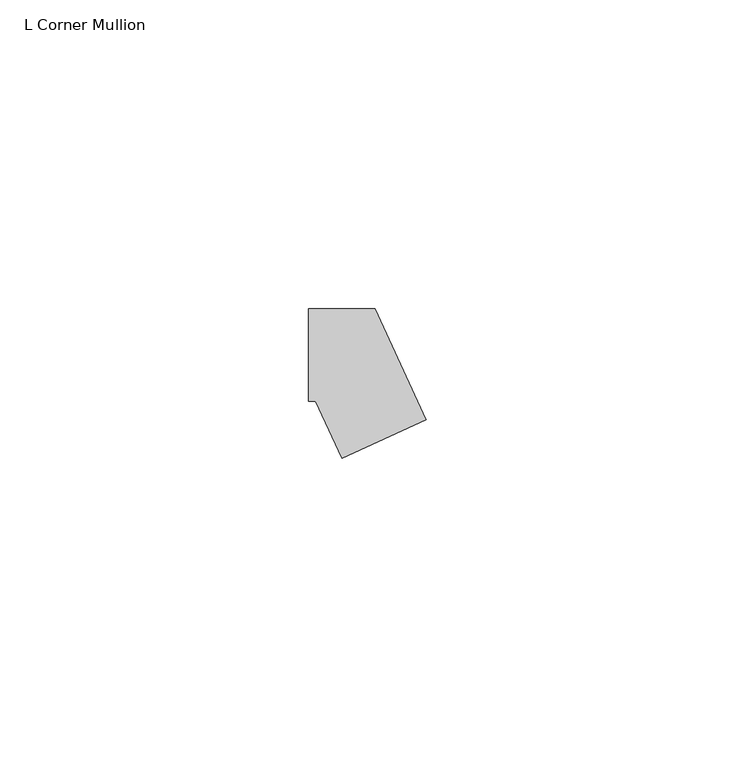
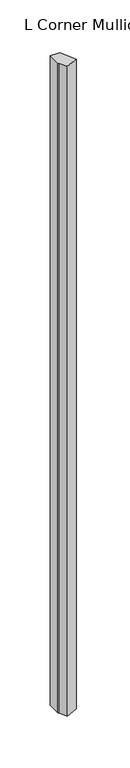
"""IFC4 building model written with IfcOpenShell, lengths in millimetres: member geometry, L Corner Mullion : ARQ_HERR_15X6mm."""

from ifc_helpers import new_model, si_unit, frame, origin, place, context, project, spatial, polyline, outline, extrude, source, transform, mapped, element, save


def l_corner_mullion_35e36f57(model_context):
    return source(origin(), model_context, "Body", "SweptSolid", [
        extrude(outline(polyline([(-0.5775282, -16.7605627), (-4.8156946, -7.5), (-6.0, -7.5), (-6.0, 7.5), (4.8156946, 7.5), (13.0619332, -10.5183601), (-0.5775282, -16.7605627)])), frame((0.0, 0.0, -787.0595443), z_axis=(0.0, 0.0, 1.0), x_axis=(1.0, 0.0, 0.0)), (0.0, 0.0, 1.0), 787.0595443),
    ])


if __name__ == "__main__":
    model = new_model("IFC4")
    model_context = context("Model", 3, world=origin())
    ifc_project = project(units=[si_unit("LENGTHUNIT", "METRE", prefix="MILLI")], contexts=[model_context])
    site = spatial("IfcSite", under=ifc_project)
    building = spatial("IfcBuilding", under=site)
    placement = place(None, origin())
    l_corner_mullion_shape = l_corner_mullion_35e36f57(model_context)
    element("IfcMember", 1, ObjectType="L Corner Mullion : ARQ_HERR_15X6mm", at=placement, inside=building, context=model_context, shape_type="MappedRepresentation", body=[
        mapped(l_corner_mullion_shape, transform((0.0, 0.0, 0.0), x_axis=(1.0, 0.0, 0.0), y_axis=(0.0, 1.0, 0.0), z_axis=(0.0, 0.0, 1.0))),
    ])
    save(model, "model.ifc")
